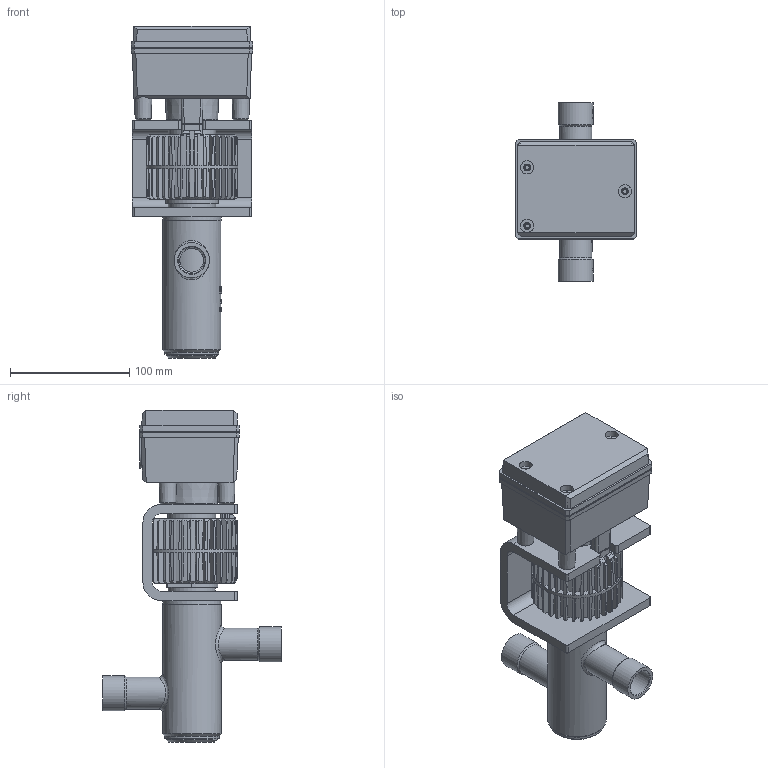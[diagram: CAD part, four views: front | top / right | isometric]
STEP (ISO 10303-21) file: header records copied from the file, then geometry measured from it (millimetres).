
FILE_DESCRIPTION(/* description */ (''),/* implementation_level */ '2;1');
FILE_NAME(/* name */ 'mvs20.stp',/* time_stamp */ '2011-01-11T07:23:03+01:00',/* author */ (''),/* organization */ (''),/* preprocessor_version */ 'ST-DEVELOPER v11',/* originating_system */ 'SIEMENS UGS NX 6.0',/* authorisation */ '');
FILE_SCHEMA (('AUTOMOTIVE_DESIGN { 1 0 10303 214 1 1 1 1 }'));
Length unit declared in the file: millimetre
Products named in the file (1): styg7A75uh4v
Bounding box: 102.2 x 150 x 278.5 mm (x, y, z)
Volume: 1135920.1 mm3; surface area: 166299 mm2
Topology: 1 solids, 1 shells, 1082 faces, 2901 edges, 1883 vertices
Faces by surface type: plane 551, cone 276, extrusion 126, cylinder 122, bspline 6, torus 1
Full cylindrical faces by diameter (mm): 1.6 x2, 3.432 x3, 4.5 x3, 5.7 x3, 11 x3, 17 x3, 20 x2, 22.5 x2, 27 x2, 29.5 x2, 38 x1, 39.7 x1, 40 x2, 40.1 x1, 43 x1, 45.5 x1, 49 x2
Entity records: 38319 total; most frequent: CARTESIAN_POINT 12273, ORIENTED_EDGE 5642, DIRECTION 4948, EDGE_CURVE 2821, VERTEX_POINT 1863, AXIS2_PLACEMENT_3D 1785, VECTOR 1378, LINE 1252
